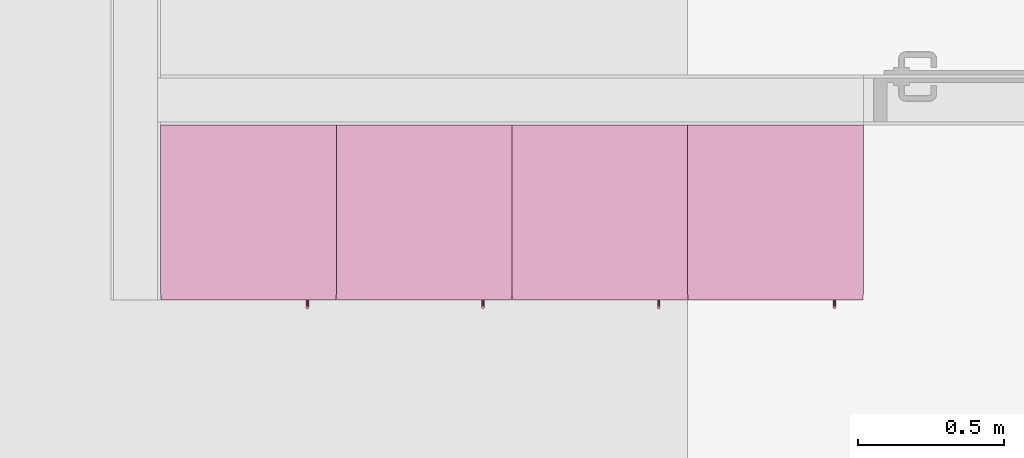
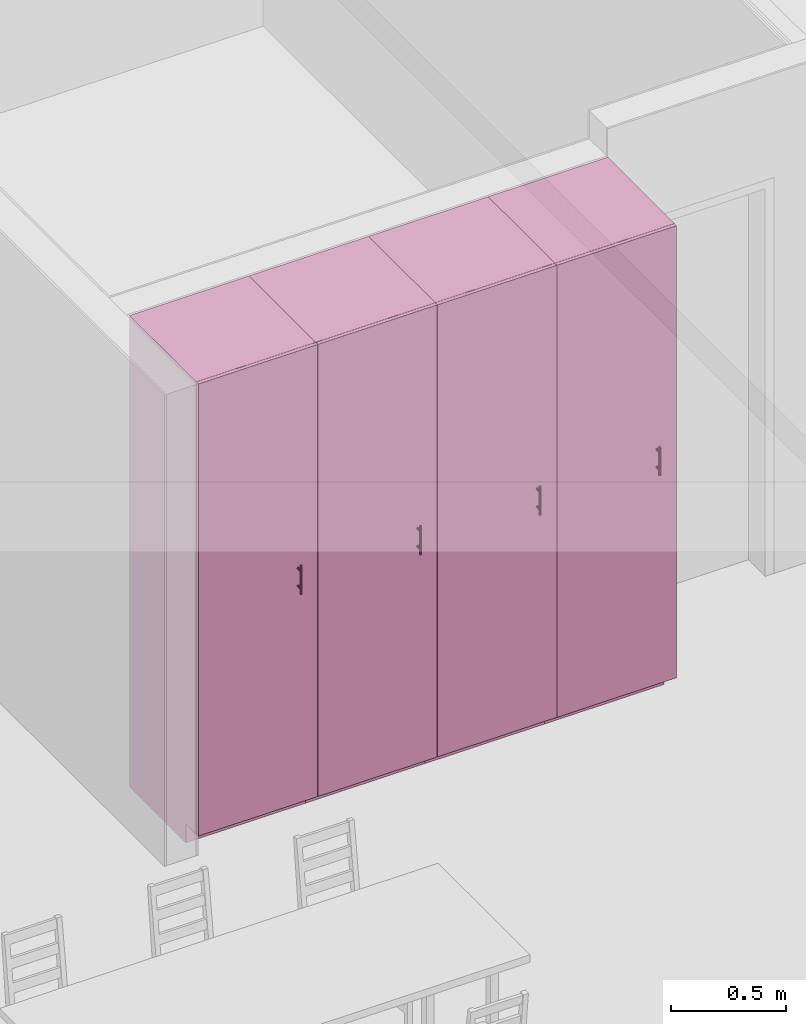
# One storey, part 31 of 34: 4 furniture elements.
"""IFC4 building model written with IfcOpenShell, lengths in millimetres."""

from ifc_helpers import new_model, entity, si_unit, converted_unit, derived_unit, direction, frame, origin_with_axes, place, context, subcontext, project, spatial, polygons, source, transform, mapped, type_object, element, save


model = new_model("IFC4")

# Units and contexts
model_context = context("Model", 3, precision=0.01, world=origin_with_axes(), true_north=direction((0.0, 1.0)))
body_context = subcontext(model_context, "Body", "Model", "MODEL_VIEW")
ifc_project = project(units=[si_unit("LENGTHUNIT", "METRE", prefix="MILLI"), si_unit("AREAUNIT", "SQUARE_METRE"), si_unit("VOLUMEUNIT", "CUBIC_METRE"), converted_unit("PLANEANGLEUNIT", "DEGREE", entity("IfcPlaneAngleMeasure", 0.0174532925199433), si_unit("PLANEANGLEUNIT", "RADIAN"), dimensions=[0, 0, 0, 0, 0, 0, 0]), converted_unit("TIMEUNIT", "Year", entity("IfcTimeMeasure", 31557600.0), si_unit("TIMEUNIT", "SECOND"), dimensions=[0, 0, 1, 0, 0, 0, 0]), si_unit("MASSUNIT", "GRAM", prefix="KILO"), si_unit("THERMODYNAMICTEMPERATUREUNIT", "DEGREE_CELSIUS"), si_unit("LUMINOUSINTENSITYUNIT", "LUMEN"), si_unit("ENERGYUNIT", "JOULE", prefix="MEGA"), derived_unit("THERMALCONDUCTANCEUNIT", [(si_unit("POWERUNIT", "WATT"), 1), (si_unit("LENGTHUNIT", "METRE"), -1), (si_unit("THERMODYNAMICTEMPERATUREUNIT", "KELVIN"), -1)]), derived_unit("SPECIFICHEATCAPACITYUNIT", [(si_unit("ENERGYUNIT", "JOULE"), 1), (si_unit("MASSUNIT", "GRAM", prefix="KILO"), -1), (si_unit("THERMODYNAMICTEMPERATUREUNIT", "KELVIN"), -1)]), derived_unit("MASSDENSITYUNIT", [(si_unit("MASSUNIT", "GRAM", prefix="KILO"), 1), (si_unit("VOLUMEUNIT", "CUBIC_METRE"), -1)])], contexts=[model_context])

# Site, building, storey
site_placement = place(None, origin_with_axes())
site = spatial("IfcSite", under=ifc_project, at=site_placement, Name="Gelände", CompositionType="ELEMENT")
building_placement = place(site_placement, origin_with_axes())
building = spatial("IfcBuilding", under=site, at=building_placement, Name="Gebäude", CompositionType="ELEMENT")
storey_placement = place(building_placement, frame((0.0, 0.0, 2900.0), z_axis=(0.0, 0.0, 1.0), x_axis=(1.0, 0.0, 0.0)))
storey = spatial("IfcBuildingStorey", under=building, at=storey_placement, Name="1.OG", CompositionType="ELEMENT", Elevation=2900.0)

# Furniture
furniture_type = type_object("IfcFurnitureType", Name="Stehender Schrank Block 27", AssemblyPlace="NOTDEFINED", PredefinedType="NOTDEFINED")
shared_shape = source(origin_with_axes(), body_context, "Body", "Tessellation", [
    polygons([(501.8682408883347, -597.9999999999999, 1352.799038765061), (502.7101007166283, -597.9999999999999, 1352.573463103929), (503.4999999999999, -597.9999999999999, 1352.205127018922), (504.2139380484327, -597.9999999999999, 1351.705222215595), (504.8302222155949, -597.9999999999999, 1351.088938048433), (505.3301270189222, -597.9999999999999, 1350.375), (505.6984631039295, -597.9999999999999, 1349.585100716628), (505.924038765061, -597.9999999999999, 1348.743240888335), (506.0, -597.9999999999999, 1347.875), (505.924038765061, -597.9999999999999, 1347.006759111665), (505.6984631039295, -597.9999999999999, 1346.164899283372), (505.3301270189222, -597.9999999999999, 1345.375), (504.8302222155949, -597.9999999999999, 1344.661061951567), (504.2139380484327, -597.9999999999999, 1344.044777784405), (503.4999999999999, -597.9999999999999, 1343.544872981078), (502.7101007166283, -597.9999999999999, 1343.176536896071), (501.8682408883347, -597.9999999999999, 1342.950961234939), (501.0, -597.9999999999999, 1342.875), (500.1317591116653, -597.9999999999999, 1342.950961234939), (499.2898992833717, -597.9999999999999, 1343.176536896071), (498.5, -597.9999999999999, 1343.544872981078), (497.7860619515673, -597.9999999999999, 1344.044777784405), (497.1697777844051, -597.9999999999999, 1344.661061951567), (496.6698729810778, -597.9999999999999, 1345.375), (496.3015368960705, -597.9999999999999, 1346.164899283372), (496.075961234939, -597.9999999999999, 1347.006759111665), (496.0, -597.9999999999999, 1347.875), (496.075961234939, -597.9999999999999, 1348.743240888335), (496.3015368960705, -597.9999999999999, 1349.585100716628), (496.6698729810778, -597.9999999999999, 1350.375), (497.1697777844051, -597.9999999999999, 1351.088938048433), (497.7860619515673, -597.9999999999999, 1351.705222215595), (498.5, -597.9999999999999, 1352.205127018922), (499.2898992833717, -597.9999999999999, 1352.573463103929), (500.1317591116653, -597.9999999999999, 1352.799038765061), (501.0, -597.9999999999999, 1352.875), (501.8682408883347, -622.9999999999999, 1352.799038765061), (502.7101007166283, -622.9999999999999, 1352.573463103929), (503.4999999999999, -622.9999999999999, 1352.205127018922), (504.2139380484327, -622.9999999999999, 1351.705222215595), (504.8302222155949, -622.9999999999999, 1351.088938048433), (505.3301270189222, -622.9999999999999, 1350.375), (505.6984631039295, -622.9999999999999, 1349.585100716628), (505.924038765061, -622.9999999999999, 1348.743240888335), (506.0, -622.9999999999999, 1347.875), (505.924038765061, -622.9999999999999, 1347.006759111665), (505.6984631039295, -622.9999999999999, 1346.164899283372), (505.3301270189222, -622.9999999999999, 1345.375), (504.8302222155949, -622.9999999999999, 1344.661061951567), (504.2139380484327, -622.9999999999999, 1344.044777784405), (503.4999999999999, -622.9999999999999, 1343.544872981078), (502.7101007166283, -622.9999999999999, 1343.176536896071), (501.8682408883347, -622.9999999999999, 1342.950961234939), (501.0, -622.9999999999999, 1342.875), (500.1317591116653, -622.9999999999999, 1342.950961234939), (499.2898992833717, -622.9999999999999, 1343.176536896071), (498.5, -622.9999999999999, 1343.544872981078), (497.7860619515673, -622.9999999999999, 1344.044777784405), (497.1697777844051, -622.9999999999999, 1344.661061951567), (496.6698729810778, -622.9999999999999, 1345.375), (496.3015368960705, -622.9999999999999, 1346.164899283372), (496.075961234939, -622.9999999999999, 1347.006759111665), (496.0, -622.9999999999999, 1347.875), (496.075961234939, -622.9999999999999, 1348.743240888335), (496.3015368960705, -622.9999999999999, 1349.585100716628), (496.6698729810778, -622.9999999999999, 1350.375), (497.1697777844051, -622.9999999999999, 1351.088938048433), (497.7860619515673, -622.9999999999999, 1351.705222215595), (498.5, -622.9999999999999, 1352.205127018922), (499.2898992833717, -622.9999999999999, 1352.573463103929), (500.1317591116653, -622.9999999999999, 1352.799038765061), (501.0, -622.9999999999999, 1352.875)], [[[1, 2, 3, 4, 5, 6, 7, 8, 9, 10, 11, 12, 13, 14, 15, 16, 17, 18, 19, 20, 21, 22, 23, 24, 25, 26, 27, 28, 29, 30, 31, 32, 33, 34, 35, 36]], [[2, 1, 37, 38]], [[3, 2, 38, 39]], [[4, 3, 39, 40]], [[5, 4, 40, 41]], [[6, 5, 41, 42]], [[7, 6, 42, 43]], [[8, 7, 43, 44]], [[9, 8, 44, 45]], [[10, 9, 45, 46]], [[11, 10, 46, 47]], [[12, 11, 47, 48]], [[13, 12, 48, 49]], [[14, 13, 49, 50]], [[15, 14, 50, 51]], [[16, 15, 51, 52]], [[17, 16, 52, 53]], [[18, 17, 53, 54]], [[19, 18, 54, 55]], [[20, 19, 55, 56]], [[21, 20, 56, 57]], [[22, 21, 57, 58]], [[23, 22, 58, 59]], [[24, 23, 59, 60]], [[25, 24, 60, 61]], [[26, 25, 61, 62]], [[27, 26, 62, 63]], [[28, 27, 63, 64]], [[29, 28, 64, 65]], [[30, 29, 65, 66]], [[31, 30, 66, 67]], [[32, 31, 67, 68]], [[33, 32, 68, 69]], [[34, 33, 69, 70]], [[35, 34, 70, 71]], [[36, 35, 71, 72]], [[1, 36, 72, 37]], [[37, 72, 71, 70, 69, 68, 67, 66, 65, 64, 63, 62, 61, 60, 59, 58, 57, 56, 55, 54, 53, 52, 51, 50, 49, 48, 47, 46, 45, 44, 43, 42, 41, 40, 39, 38]]], closed=True),
    polygons([(501.8682408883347, -597.9999999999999, 1249.200961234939), (501.0, -597.9999999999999, 1249.125), (500.1317591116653, -597.9999999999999, 1249.200961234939), (499.2898992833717, -597.9999999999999, 1249.426536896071), (498.5, -597.9999999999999, 1249.794872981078), (497.7860619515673, -597.9999999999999, 1250.294777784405), (497.1697777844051, -597.9999999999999, 1250.911061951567), (496.6698729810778, -597.9999999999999, 1251.625), (496.3015368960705, -597.9999999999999, 1252.414899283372), (496.075961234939, -597.9999999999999, 1253.256759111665), (496.0, -597.9999999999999, 1254.125), (496.075961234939, -597.9999999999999, 1254.993240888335), (496.3015368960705, -597.9999999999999, 1255.835100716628), (496.6698729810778, -597.9999999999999, 1256.625), (497.1697777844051, -597.9999999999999, 1257.338938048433), (497.7860619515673, -597.9999999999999, 1257.955222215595), (498.5, -597.9999999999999, 1258.455127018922), (499.2898992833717, -597.9999999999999, 1258.823463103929), (500.1317591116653, -597.9999999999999, 1259.049038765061), (501.0, -597.9999999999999, 1259.125), (501.8682408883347, -597.9999999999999, 1259.049038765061), (502.7101007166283, -597.9999999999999, 1258.823463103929), (503.4999999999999, -597.9999999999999, 1258.455127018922), (504.2139380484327, -597.9999999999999, 1257.955222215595), (504.8302222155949, -597.9999999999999, 1257.338938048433), (505.3301270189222, -597.9999999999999, 1256.625), (505.6984631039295, -597.9999999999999, 1255.835100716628), (505.924038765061, -597.9999999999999, 1254.993240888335), (506.0, -597.9999999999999, 1254.125), (505.924038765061, -597.9999999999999, 1253.256759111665), (505.6984631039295, -597.9999999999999, 1252.414899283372), (505.3301270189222, -597.9999999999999, 1251.625), (504.8302222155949, -597.9999999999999, 1250.911061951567), (504.2139380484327, -597.9999999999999, 1250.294777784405), (503.4999999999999, -597.9999999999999, 1249.794872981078), (502.7101007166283, -597.9999999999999, 1249.426536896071), (501.8682408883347, -622.9999999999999, 1249.200961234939), (501.0, -622.9999999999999, 1249.125), (500.1317591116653, -622.9999999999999, 1249.200961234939), (499.2898992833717, -622.9999999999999, 1249.426536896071), (498.5, -622.9999999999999, 1249.794872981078), (497.7860619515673, -622.9999999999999, 1250.294777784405), (497.1697777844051, -622.9999999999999, 1250.911061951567), (496.6698729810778, -622.9999999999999, 1251.625), (496.3015368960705, -622.9999999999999, 1252.414899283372), (496.075961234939, -622.9999999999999, 1253.256759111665), (496.0, -622.9999999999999, 1254.125), (496.075961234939, -622.9999999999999, 1254.993240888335), (496.3015368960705, -622.9999999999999, 1255.835100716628), (496.6698729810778, -622.9999999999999, 1256.625), (497.1697777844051, -622.9999999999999, 1257.338938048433), (497.7860619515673, -622.9999999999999, 1257.955222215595), (498.5, -622.9999999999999, 1258.455127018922), (499.2898992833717, -622.9999999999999, 1258.823463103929), (500.1317591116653, -622.9999999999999, 1259.049038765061), (501.0, -622.9999999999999, 1259.125), (501.8682408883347, -622.9999999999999, 1259.049038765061), (502.7101007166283, -622.9999999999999, 1258.823463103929), (503.4999999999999, -622.9999999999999, 1258.455127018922), (504.2139380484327, -622.9999999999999, 1257.955222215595), (504.8302222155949, -622.9999999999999, 1257.338938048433), (505.3301270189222, -622.9999999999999, 1256.625), (505.6984631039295, -622.9999999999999, 1255.835100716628), (505.924038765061, -622.9999999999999, 1254.993240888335), (506.0, -622.9999999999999, 1254.125), (505.924038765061, -622.9999999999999, 1253.256759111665), (505.6984631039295, -622.9999999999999, 1252.414899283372), (505.3301270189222, -622.9999999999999, 1251.625), (504.8302222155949, -622.9999999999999, 1250.911061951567), (504.2139380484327, -622.9999999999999, 1250.294777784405), (503.4999999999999, -622.9999999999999, 1249.794872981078), (502.7101007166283, -622.9999999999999, 1249.426536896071)], [[[1, 2, 3, 4, 5, 6, 7, 8, 9, 10, 11, 12, 13, 14, 15, 16, 17, 18, 19, 20, 21, 22, 23, 24, 25, 26, 27, 28, 29, 30, 31, 32, 33, 34, 35, 36]], [[1, 37, 38, 2]], [[2, 38, 39, 3]], [[3, 39, 40, 4]], [[4, 40, 41, 5]], [[5, 41, 42, 6]], [[6, 42, 43, 7]], [[7, 43, 44, 8]], [[8, 44, 45, 9]], [[9, 45, 46, 10]], [[10, 46, 47, 11]], [[11, 47, 48, 12]], [[12, 48, 49, 13]], [[13, 49, 50, 14]], [[14, 50, 51, 15]], [[15, 51, 52, 16]], [[16, 52, 53, 17]], [[17, 53, 54, 18]], [[18, 54, 55, 19]], [[19, 55, 56, 20]], [[20, 56, 57, 21]], [[21, 57, 58, 22]], [[22, 58, 59, 23]], [[23, 59, 60, 24]], [[24, 60, 61, 25]], [[25, 61, 62, 26]], [[26, 62, 63, 27]], [[27, 63, 64, 28]], [[28, 64, 65, 29]], [[29, 65, 66, 30]], [[30, 66, 67, 31]], [[31, 67, 68, 32]], [[32, 68, 69, 33]], [[33, 69, 70, 34]], [[34, 70, 71, 35]], [[35, 71, 72, 36]], [[36, 72, 37, 1]], [[37, 72, 71, 70, 69, 68, 67, 66, 65, 64, 63, 62, 61, 60, 59, 58, 57, 56, 55, 54, 53, 52, 51, 50, 49, 48, 47, 46, 45, 44, 43, 42, 41, 40, 39, 38]]], closed=True),
    polygons([(501.8682408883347, -618.0759612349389, 1226.0), (502.7101007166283, -618.3015368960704, 1226.0), (503.4999999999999, -618.6698729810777, 1226.0), (504.2139380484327, -619.1697777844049, 1226.0), (504.8302222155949, -619.7860619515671, 1226.0), (505.3301270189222, -620.4999999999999, 1226.0), (505.6984631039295, -621.2898992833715, 1226.0), (505.924038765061, -622.1317591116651, 1226.0), (506.0, -622.9999999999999, 1226.0), (505.924038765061, -623.8682408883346, 1226.0), (505.6984631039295, -624.7101007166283, 1226.0), (505.3301270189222, -625.4999999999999, 1226.0), (504.8302222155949, -626.2139380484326, 1226.0), (504.2139380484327, -626.8302222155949, 1226.0), (503.4999999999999, -627.3301270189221, 1226.0), (502.7101007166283, -627.6984631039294, 1226.0), (501.8682408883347, -627.924038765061, 1226.0), (501.0, -627.9999999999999, 1226.0), (500.1317591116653, -627.924038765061, 1226.0), (499.2898992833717, -627.6984631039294, 1226.0), (498.5, -627.3301270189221, 1226.0), (497.7860619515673, -626.8302222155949, 1226.0), (497.1697777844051, -626.2139380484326, 1226.0), (496.6698729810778, -625.4999999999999, 1226.0), (496.3015368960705, -624.7101007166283, 1226.0), (496.075961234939, -623.8682408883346, 1226.0), (496.0, -622.9999999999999, 1226.0), (496.075961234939, -622.1317591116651, 1226.0), (496.3015368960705, -621.2898992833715, 1226.0), (496.6698729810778, -620.4999999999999, 1226.0), (497.1697777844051, -619.7860619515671, 1226.0), (497.7860619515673, -619.1697777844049, 1226.0), (498.5, -618.6698729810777, 1226.0), (499.2898992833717, -618.3015368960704, 1226.0), (500.1317591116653, -618.0759612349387, 1226.0), (501.0, -617.9999999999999, 1226.0), (501.8682408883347, -618.0759612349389, 1376.0), (502.7101007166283, -618.3015368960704, 1376.0), (503.5000000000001, -618.6698729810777, 1376.0), (504.2139380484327, -619.1697777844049, 1376.0), (504.8302222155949, -619.7860619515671, 1376.0), (505.3301270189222, -620.4999999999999, 1376.0), (505.6984631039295, -621.2898992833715, 1376.0), (505.9240387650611, -622.1317591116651, 1376.0), (506.0, -622.9999999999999, 1376.0), (505.9240387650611, -623.8682408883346, 1376.0), (505.6984631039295, -624.7101007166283, 1376.0), (505.3301270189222, -625.4999999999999, 1376.0), (504.8302222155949, -626.2139380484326, 1376.0), (504.2139380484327, -626.8302222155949, 1376.0), (503.5000000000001, -627.3301270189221, 1376.0), (502.7101007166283, -627.6984631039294, 1376.0), (501.8682408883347, -627.924038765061, 1376.0), (501.0, -627.9999999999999, 1376.0), (500.1317591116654, -627.924038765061, 1376.0), (499.2898992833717, -627.6984631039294, 1376.0), (498.5, -627.3301270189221, 1376.0), (497.7860619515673, -626.8302222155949, 1376.0), (497.1697777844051, -626.2139380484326, 1376.0), (496.6698729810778, -625.4999999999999, 1376.0), (496.3015368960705, -624.7101007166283, 1376.0), (496.075961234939, -623.8682408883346, 1376.0), (496.0, -622.9999999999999, 1376.0), (496.075961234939, -622.1317591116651, 1376.0), (496.3015368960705, -621.2898992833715, 1376.0), (496.6698729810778, -620.4999999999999, 1376.0), (497.1697777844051, -619.7860619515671, 1376.0), (497.7860619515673, -619.1697777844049, 1376.0), (498.5, -618.6698729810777, 1376.0), (499.2898992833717, -618.3015368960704, 1376.0), (500.1317591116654, -618.0759612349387, 1376.0), (501.0, -617.9999999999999, 1376.0)], [[[1, 2, 3, 4, 5, 6, 7, 8, 9, 10, 11, 12, 13, 14, 15, 16, 17, 18, 19, 20, 21, 22, 23, 24, 25, 26, 27, 28, 29, 30, 31, 32, 33, 34, 35, 36]], [[2, 1, 37, 38]], [[3, 2, 38, 39]], [[4, 3, 39, 40]], [[5, 4, 40, 41]], [[6, 5, 41, 42]], [[7, 6, 42, 43]], [[8, 7, 43, 44]], [[9, 8, 44, 45]], [[10, 9, 45, 46]], [[11, 10, 46, 47]], [[12, 11, 47, 48]], [[13, 12, 48, 49]], [[14, 13, 49, 50]], [[15, 14, 50, 51]], [[16, 15, 51, 52]], [[17, 16, 52, 53]], [[18, 17, 53, 54]], [[19, 18, 54, 55]], [[20, 19, 55, 56]], [[21, 20, 56, 57]], [[22, 21, 57, 58]], [[23, 22, 58, 59]], [[24, 23, 59, 60]], [[25, 24, 60, 61]], [[26, 25, 61, 62]], [[27, 26, 62, 63]], [[28, 27, 63, 64]], [[29, 28, 64, 65]], [[30, 29, 65, 66]], [[31, 30, 66, 67]], [[32, 31, 67, 68]], [[33, 32, 68, 69]], [[34, 33, 69, 70]], [[35, 34, 70, 71]], [[36, 35, 71, 72]], [[1, 36, 72, 37]], [[37, 72, 71, 70, 69, 68, 67, 66, 65, 64, 63, 62, 61, 60, 59, 58, 57, 56, 55, 54, 53, 52, 51, 50, 49, 48, 47, 46, 45, 44, 43, 42, 41, 40, 39, 38]]], closed=True),
    polygons([(1.0, -580.0, 101.0), (599.0, -580.0, 101.0), (599.0, -598.0, 101.0), (1.0, -598.0, 101.0), (1.0, -579.9999999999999, 2499.0), (599.0, -579.9999999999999, 2499.0), (599.0, -597.9999999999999, 2499.0), (1.0, -597.9999999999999, 2499.0)], [[[1, 2, 3, 4]], [[1, 5, 6, 2]], [[2, 6, 7, 3]], [[4, 3, 7, 8]], [[5, 1, 4, 8]], [[6, 5, 8, 7]]], closed=True),
    polygons([(18.0, -580.0, 100.0), (582.0, -580.0, 100.0), (582.0, -580.0, 118.0), (18.0, -580.0, 118.0), (18.0, 0.0, 100.0), (582.0, 0.0, 100.0), (582.0, 0.0, 118.0), (18.0, 0.0, 118.0)], [[[1, 2, 3, 4]], [[1, 5, 6, 2]], [[2, 6, 7, 3]], [[4, 3, 7, 8]], [[5, 1, 4, 8]], [[6, 5, 8, 7]]], closed=True),
    polygons([(18.0, -580.0, 2482.0), (582.0, -580.0, 2482.0), (582.0, -580.0, 2500.0), (18.0, -580.0, 2500.0), (18.0, 0.0, 2482.0), (582.0, 0.0, 2482.0), (582.0, 0.0, 2500.0), (18.0, 0.0, 2500.0)], [[[1, 2, 3, 4]], [[1, 5, 6, 2]], [[2, 6, 7, 3]], [[4, 3, 7, 8]], [[5, 1, 4, 8]], [[6, 5, 8, 7]]], closed=True),
    polygons([(0.0, 0.0, 100.0), (0.0, -580.0, 100.0), (0.0, -580.0, 2500.0), (0.0, 0.0, 2500.0), (18.0, 0.0, 100.0), (18.0, -580.0, 100.0), (18.0, -580.0, 2500.0), (18.0, 0.0, 2500.0)], [[[1, 2, 3, 4]], [[1, 5, 6, 2]], [[2, 6, 7, 3]], [[4, 3, 7, 8]], [[5, 1, 4, 8]], [[6, 5, 8, 7]]], closed=True),
    polygons([(600.0, -580.0, 100.0), (600.0, 0.0, 100.0), (600.0, 0.0, 2500.0), (600.0, -580.0, 2500.0), (582.0, -580.0, 100.0), (582.0, 0.0, 100.0), (582.0, 0.0, 2500.0), (582.0, -580.0, 2500.0)], [[[1, 2, 3, 4]], [[1, 5, 6, 2]], [[2, 6, 7, 3]], [[4, 3, 7, 8]], [[5, 1, 4, 8]], [[6, 5, 8, 7]]], closed=True),
    polygons([(582.0, -9.0, 118.0), (18.00000000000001, -9.0, 118.0), (18.00000000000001, -9.0, 2482.0), (582.0, -9.0, 2482.0), (582.0, -18.0, 118.0), (18.00000000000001, -18.0, 118.0), (18.00000000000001, -18.0, 2482.0), (582.0, -18.0, 2482.0)], [[[1, 2, 3, 4]], [[1, 5, 6, 2]], [[2, 6, 7, 3]], [[4, 3, 7, 8]], [[5, 1, 4, 8]], [[6, 5, 8, 7]]], closed=True),
    polygons([(0.0, -490.0, 0.0), (600.0, -490.0, 0.0), (600.0, -490.0, 100.0), (0.0, -490.0, 100.0), (0.0, 0.0, 0.0), (600.0, 0.0, 0.0), (600.0, 0.0, 100.0), (0.0, 0.0, 100.0)], [[[1, 2, 3, 4]], [[1, 5, 6, 2]], [[2, 6, 7, 3]], [[4, 3, 7, 8]], [[5, 1, 4, 8]], [[6, 5, 8, 7]]], closed=True),
])
for number, where, z_axis, x_axis in (
    (1, (8428.997444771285, 29747.59728131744, 149.9999999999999), (0.0, 0.0, 1.0), (1.0, 0.0, 0.0)),
    (2, (10228.99744477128, 29747.59728131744, 149.9999999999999), (0.0, 0.0, 1.0), (1.0, 0.0, 0.0)),
    (3, (9628.997444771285, 29747.59728131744, 149.9999999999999), (0.0, 0.0, 1.0), (1.0, 0.0, 0.0)),
    (4, (9028.997444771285, 29747.59728131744, 149.9999999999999), (0.0, 0.0, 1.0), (1.0, 0.0, 0.0)),
):
    element("IfcFurniture", number, at=place(storey_placement, frame(where, z_axis=z_axis, x_axis=x_axis)), inside=storey, type_object=furniture_type, Name="Möbel-021", PredefinedType="NOTDEFINED", context=body_context, shape_type="MappedRepresentation", body=[
        mapped(shared_shape, transform((0.0, 0.0, 0.0))),
    ])

save(model, "model.ifc")
